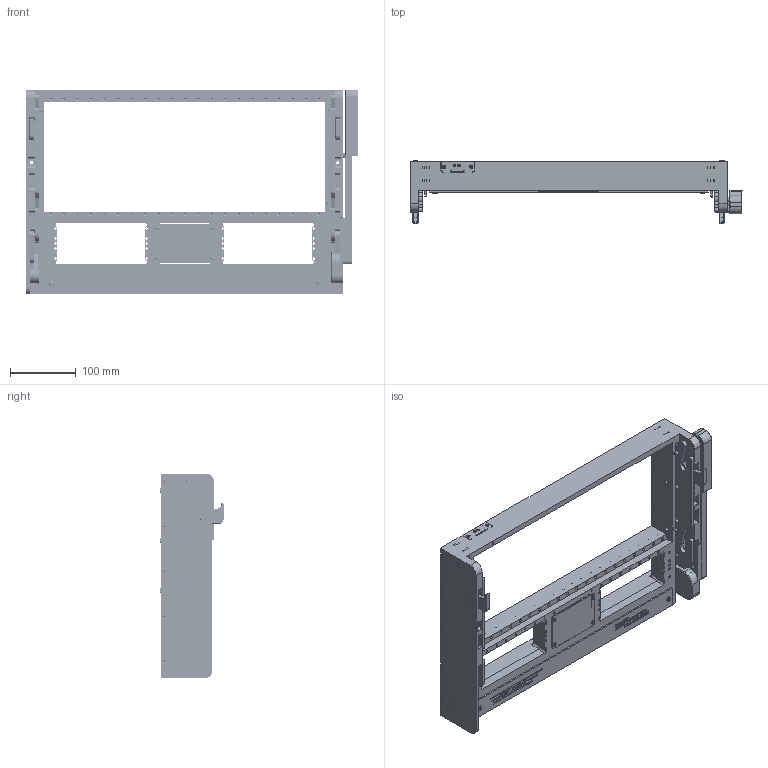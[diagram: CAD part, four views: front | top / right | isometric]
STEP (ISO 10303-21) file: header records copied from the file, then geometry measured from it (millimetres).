
FILE_DESCRIPTION(/* description */ (''),/* implementation_level */ '2;1');
FILE_NAME(/* name */ 'F:\CAD\CAD COMPLETE\web site project\Receivers\561911-RevB-STP\561911-RevB-STP-no_blanks.stp',/* time_stamp */ '2015-09-21T11:36:00+01:00',/* author */ ('davecooper'),/* organization */ (''),/* preprocessor_version */ 'ST-DEVELOPER v15.2',/* originating_system */ 'Autodesk Inventor 2014',/* authorisation */ '');
FILE_SCHEMA (('AUTOMOTIVE_DESIGN { 1 0 10303 214 3 1 1 }'));
Products named in the file (1): 561911-CU
Bounding box: 504.77 x 95.85 x 311.61 mm (x, y, z)
Volume: 2321548.2 mm3; surface area: 587721.1 mm2
Topology: 3 solids, 41 shells, 4448 faces, 11552 edges, 7497 vertices
Faces by surface type: plane 2299, bspline 1177, cylinder 675, cone 267, torus 24, sphere 6
Full cylindrical faces by diameter (mm): 1.524 x2, 1.981 x1, 2.184 x2, 2.322 x7, 2.388 x2, 2.642 x8, 2.845 x36, 3.175 x5, 3.251 x4, 3.302 x12, 3.454 x4, 3.505 x6, 3.551 x38, 3.556 x1, 3.658 x24, 3.81 x4, 3.962 x5, 3.967 x2, 4.166 x50, 4.496 x12, 4.521 x42, 4.775 x16, 4.826 x5, 5.105 x12, 5.309 x3, 5.573 x4, 5.944 x8, 6.325 x1, 6.337 x9, 6.35 x5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
Entity records: 144218 total; most frequent: CARTESIAN_POINT 44183, ORIENTED_EDGE 21082, DIRECTION 15694, EDGE_CURVE 10541, VERTEX_POINT 7152, LINE 6214, VECTOR 6214, EDGE_LOOP 5573
